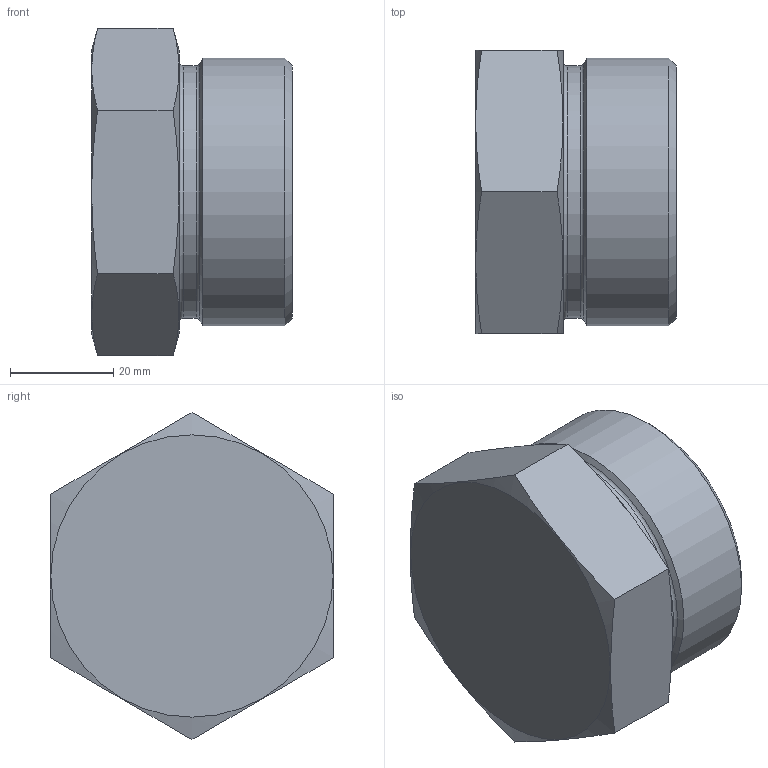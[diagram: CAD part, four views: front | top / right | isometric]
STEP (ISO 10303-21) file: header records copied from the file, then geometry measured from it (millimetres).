
FILE_DESCRIPTION( ( 'Unknown' ), '1' );
FILE_NAME( 'C:/Users/p.nanko/Desktop/3D SR/XROV38S.stp', 'Unknown', ( 'Peter Nanko' ), ( 'Armaturen Arndt' ), 'PSStep 14.0', 'Solid Edge ST4', ' ' );
FILE_SCHEMA( ( 'AUTOMOTIVE_DESIGN { 1 0 10303 214 1 1 1 1 }' ) );
Length unit declared in the file: millimetre
Products named in the file (1): 1
Bounding box: 39 x 55 x 63.51 mm (x, y, z)
Volume: 65330.4 mm3; surface area: 14560.9 mm2
Topology: 1 solids, 1 shells, 22 faces, 45 edges, 28 vertices
Faces by surface type: plane 11, cone 5, cylinder 4, torus 2
Full cylindrical faces by diameter (mm): 32 x1, 38.3 x1, 49 x1, 52 x1
Entity records: 770 total; most frequent: CARTESIAN_POINT 181, DIRECTION 80, ORIENTED_EDGE 64, AXIS2_PLACEMENT_3D 37, EDGE_LOOP 36, EDGE_CURVE 32, FACE_OUTER_BOUND 28, VERTEX_POINT 26
